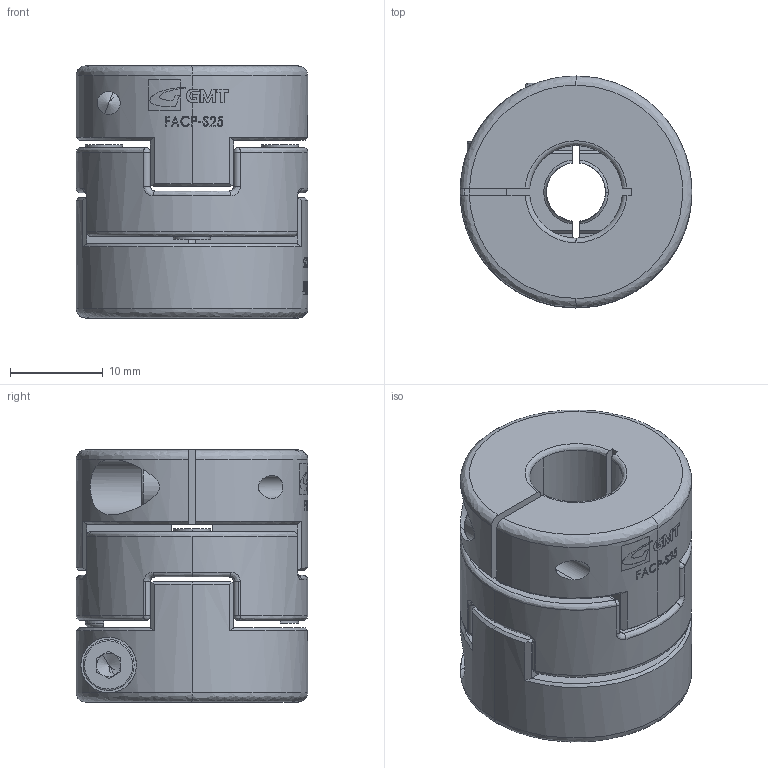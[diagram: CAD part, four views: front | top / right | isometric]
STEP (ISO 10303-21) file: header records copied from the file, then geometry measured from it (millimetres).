
FILE_DESCRIPTION (( 'STEP AP203' ), '1' );
FILE_NAME ('FACP-S25.STEP', '2008-04-07T00:50:23', ( '陳志豪' ), ( '高明鐵企業股份有限公司' ), 'SwSTEP 2.0', 'SolidWorks 2007', '' );
FILE_SCHEMA (( 'CONFIG_CONTROL_DESIGN' ));
Length unit declared in the file: millimetre
Products named in the file (1): FACP-S25
Bounding box: 25 x 25 x 27.2 mm (x, y, z)
Surface area: 5864.5 mm2 (no closed solid volume)
Topology: 0 solids, 9 shells, 333 faces, 1469 edges, 1069 vertices
Faces by surface type: plane 129, bspline 97, cylinder 91, cone 16
Entity records: 21491 total; most frequent: CARTESIAN_POINT 11238, ORIENTED_EDGE 2141, DIRECTION 1649, EDGE_CURVE 1455, VERTEX_POINT 1069, AXIS2_PLACEMENT_3D 557, B_SPLINE_CURVE_WITH_KNOTS 552, VECTOR 535
